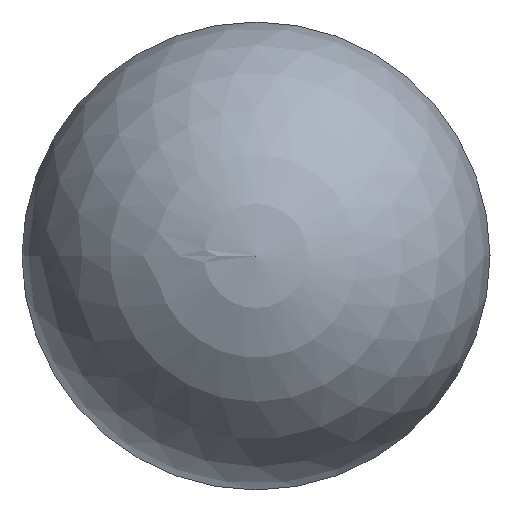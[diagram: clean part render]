
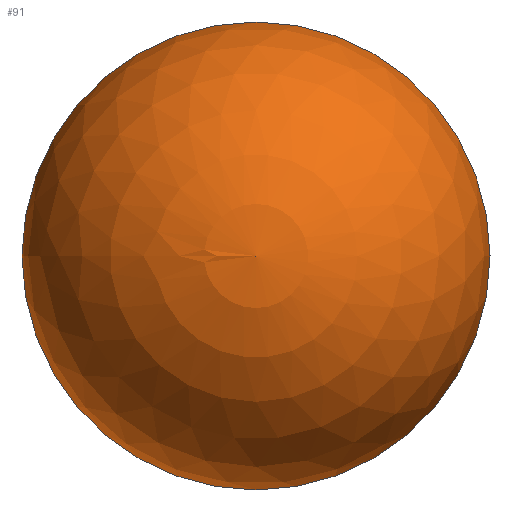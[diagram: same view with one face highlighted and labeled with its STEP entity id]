
A CAD part, left-side view. The second image highlights one B-rep face of the part: STEP entity #91.
In plain terms, the highlighted spherical face has radius 12.4 mm.
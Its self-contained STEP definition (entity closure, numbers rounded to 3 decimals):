
#27=ORIENTED_EDGE('',*,*,#41,.F.);
#41=EDGE_CURVE('',#48,#48,#55,.T.);
#48=VERTEX_POINT('',#162);
#55=CIRCLE('',#113,12.4);
#62=EDGE_LOOP('',(#27));
#76=FACE_BOUND('',#62,.T.);
#90=SPHERICAL_SURFACE('',#112,12.4);
#91=ADVANCED_FACE('',(#76),#90,.T.);
#112=AXIS2_PLACEMENT_3D('',#160,#129,#130);
#113=AXIS2_PLACEMENT_3D('',#161,#131,#132);
#129=DIRECTION('',(1.,0.,0.));
#130=DIRECTION('',(0.,1.,0.));
#131=DIRECTION('',(1.,0.,0.));
#132=DIRECTION('',(0.,1.,0.));
#160=CARTESIAN_POINT('',(12.4,0.,0.));
#161=CARTESIAN_POINT('',(12.4,0.,0.));
#162=CARTESIAN_POINT('',(12.4,12.4,0.));
